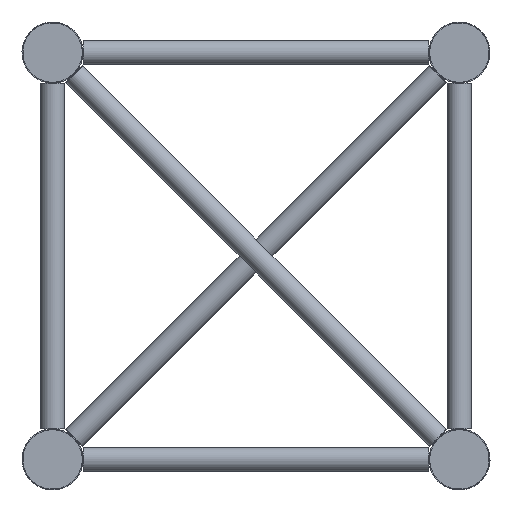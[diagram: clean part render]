
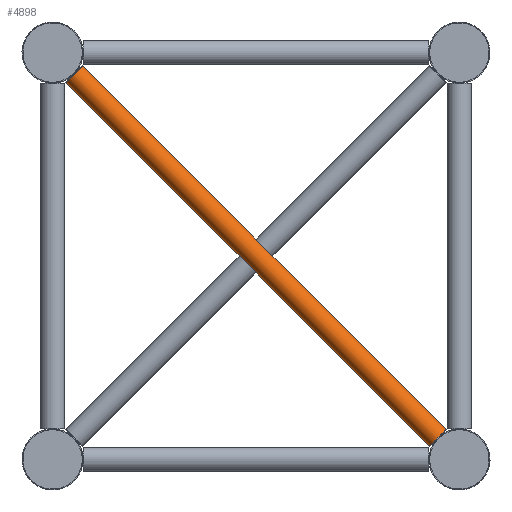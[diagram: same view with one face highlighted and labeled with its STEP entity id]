
A CAD part, left-side view. The second image highlights one B-rep face of the part: STEP entity #4898.
In plain terms, the highlighted cylindrical face has radius 10 mm (diameter 20 mm), a full revolution.
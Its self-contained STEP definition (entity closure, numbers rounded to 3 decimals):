
#797=CYLINDRICAL_SURFACE('',#5421,10.);
#996=FACE_BOUND('',#1774,.T.);
#1284=FACE_OUTER_BOUND('',#1773,.T.);
#1773=EDGE_LOOP('',(#4091));
#1774=EDGE_LOOP('',(#4092));
#1848=CIRCLE('',#5420,10.);
#1849=CIRCLE('',#5422,10.);
#2270=VERTEX_POINT('',#9312);
#2271=VERTEX_POINT('',#9315);
#2868=EDGE_CURVE('',#2270,#2270,#1848,.T.);
#2869=EDGE_CURVE('',#2271,#2271,#1849,.T.);
#4091=ORIENTED_EDGE('',*,*,#2868,.T.);
#4092=ORIENTED_EDGE('',*,*,#2869,.T.);
#4898=ADVANCED_FACE('',(#1284,#996),#797,.T.);
#5420=AXIS2_PLACEMENT_3D('',#9313,#6630,#6631);
#5421=AXIS2_PLACEMENT_3D('',#9314,#6632,#6633);
#5422=AXIS2_PLACEMENT_3D('',#9316,#6634,#6635);
#6630=DIRECTION('center_axis',(0.,0.707,
0.707));
#6631=DIRECTION('ref_axis',(0.,0.707,-0.707));
#6632=DIRECTION('center_axis',(0.,0.707,
0.707));
#6633=DIRECTION('ref_axis',(0.,0.707,-0.707));
#6634=DIRECTION('center_axis',(0.,-0.707,
-0.707));
#6635=DIRECTION('ref_axis',(0.,0.707,-0.707));
#9312=CARTESIAN_POINT('',(60.,10.967,-313.891));
#9313=CARTESIAN_POINT('Origin',(60.,18.038,-320.962));
#9314=CARTESIAN_POINT('Origin',(60.,169.5,-169.5));
#9315=CARTESIAN_POINT('',(60.,313.891,-10.967));
#9316=CARTESIAN_POINT('Origin',(60.,320.962,-18.038));
